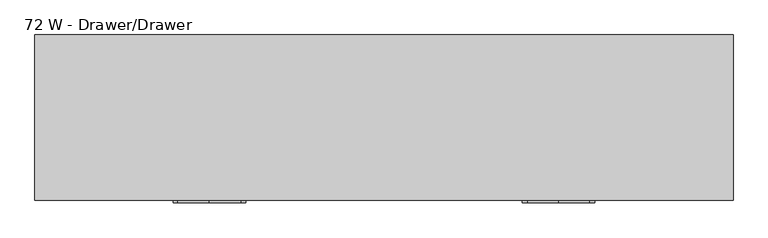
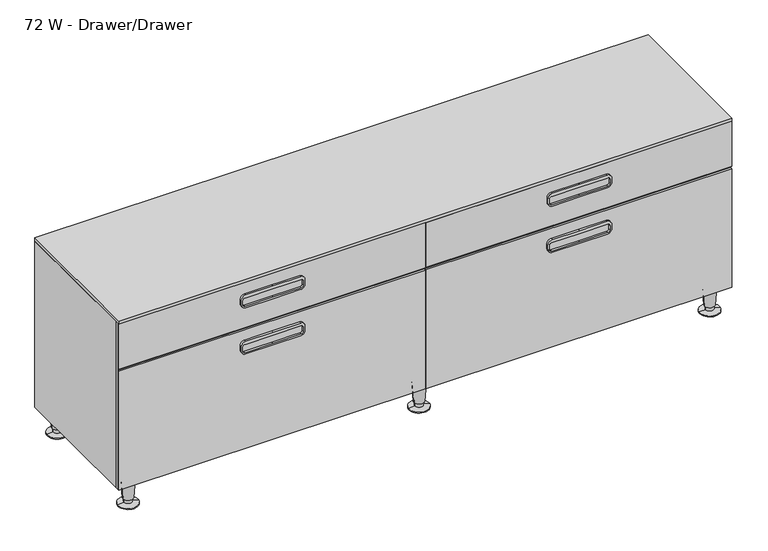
"""IFC4 building model written with IfcOpenShell, lengths in millimetres: furniture geometry, Steelcase - C Scape - Low Storage - 1.5 High - 60W and 72W : 72 W - Drawer/Drawer."""

from ifc_helpers import new_model, si_unit, point, frame, frame_2d, origin, place, context, project, spatial, polyline, circle_curve, trimmed, segment, composite_curve, outline, extrude, faceted_brep, source, transform, mapped, element, save
from ifc_brep_helpers import plane_surface, cylinder_surface, revolved_surface, advanced_brep


def furniture_72_w_drawer_drawer_66487425(model_context):
    return source(origin(), model_context, "Body", "SolidModel", [
        extrude(outline(polyline([(76.1508625, -305.435), (76.1508625, 1523.365), (599.4400097, 1523.365), (599.4400097, 609.532594), (599.4400097, -305.435), (76.1508625, -305.435)]), holes=[polyline([(92.7100024, 600.0410976), (92.7100024, -283.4617676), (436.8800097, -283.4617676), (436.8800097, 600.0410976), (92.7100024, 600.0410976)]), polyline([(588.9625, -283.4617676), (588.9625, 600.0410976), (458.7240097, 600.0410976), (458.7240097, -283.4617676), (588.9625, -283.4617676)]), polyline([(436.8800097, 617.8889024), (436.8800097, 1501.3917676), (92.7100024, 1501.3917676), (92.7100024, 617.8889024), (436.8800097, 617.8889024)]), polyline([(588.9625, 1501.3917676), (458.7240097, 1501.3917676), (458.7240097, 617.8889024), (588.9625, 617.8889024), (588.9625, 1501.3917676)])]), frame((0.0, -426.7186111, 0.0), z_axis=(0.0, 1.0, 0.0), x_axis=(0.0, 0.0, 1.0)), (0.0, 0.0, 1.0), 7.3648883),
        extrude(outline(polyline([(631.5075126, -9.525), (1501.3917676, -9.525), (1501.3917676, -415.2912402), (631.5075126, -415.2912402), (631.5075126, -9.525)])), frame((0.0, 0.0, 436.8800097), z_axis=(0.0, 0.0, 1.0), x_axis=(1.0, 0.0, 0.0)), (0.0, 0.0, 1.0), 21.844),
        extrude(outline(polyline([(586.4224874, -415.2912402), (-283.4617676, -415.2912402), (-283.4617676, -9.525), (586.4224874, -9.525), (586.4224874, -415.2912402)])), frame((0.0, 0.0, 436.8800097), z_axis=(0.0, 0.0, 1.0), x_axis=(1.0, 0.0, 0.0)), (0.0, 0.0, 1.0), 21.844),
        extrude(outline(composite_curve([segment(polyline([(419.0999879, 233.6804108), (419.0999879, 151.447655), (419.0999879, 69.2148993)]), True, "CONTINUOUS"), segment(trimmed(circle_curve(frame_2d((406.3999879, 69.2148993)), 12.7), [point((419.0999879, 69.2148993))], [point((406.3999879, 56.5148993))], False, "CARTESIAN"), True, "CONTINUOUS"), segment(polyline([(406.3999879, 56.5148993), (391.795017, 56.5148993)]), True, "CONTINUOUS"), segment(trimmed(circle_curve(frame_2d((391.795017, 69.2148993)), 12.7), [point((391.795017, 56.5148993))], [point((379.095017, 69.2148993))], False, "CARTESIAN"), True, "CONTINUOUS"), segment(polyline([(379.095017, 69.2148993), (379.095017, 151.447655), (379.095017, 233.6804108)]), True, "CONTINUOUS"), segment(trimmed(circle_curve(frame_2d((391.795017, 233.6804108)), 12.7), [point((379.095017, 233.6804108))], [point((391.795017, 246.3804108))], False, "CARTESIAN"), True, "CONTINUOUS"), segment(polyline([(391.795017, 246.3804108), (406.3999879, 246.3804108)]), True, "CONTINUOUS"), segment(trimmed(circle_curve(frame_2d((406.3999879, 233.6804108)), 12.7), [point((406.3999879, 246.3804108))], [point((419.0999879, 233.6804108))], False, "CARTESIAN"), True, "CONTINUOUS")], self_intersect=False), holes=[composite_curve([segment(polyline([(402.9710063, 241.5527985), (390.2709942, 241.5527985)]), True, "CONTINUOUS"), segment(trimmed(circle_curve(frame_2d((390.2709942, 235.2027985)), 6.35), [point((390.2709942, 241.5527985))], [point((383.9209942, 235.2027985))], True, "CARTESIAN"), True, "CONTINUOUS"), segment(polyline([(383.9209942, 235.2027985), (383.9209942, 151.447655), (383.9209942, 67.6925116)]), True, "CONTINUOUS"), segment(trimmed(circle_curve(frame_2d((390.2709942, 67.6925116)), 6.35), [point((383.9209942, 67.6925116))], [point((390.2709942, 61.3425116))], True, "CARTESIAN"), True, "CONTINUOUS"), segment(polyline([(390.2709942, 61.3425116), (402.9710063, 61.3425116)]), True, "CONTINUOUS"), segment(trimmed(circle_curve(frame_2d((402.9710063, 67.6925116)), 6.35), [point((402.9710063, 61.3425116))], [point((409.3210063, 67.6925116))], True, "CARTESIAN"), True, "CONTINUOUS"), segment(polyline([(409.3210063, 67.6925116), (409.3210063, 151.447655), (409.3210063, 235.2027985)]), True, "CONTINUOUS"), segment(trimmed(circle_curve(frame_2d((402.9710063, 235.2027985)), 6.35), [point((409.3210063, 235.2027985))], [point((402.9710063, 241.5527985))], True, "CARTESIAN"), True, "CONTINUOUS")], self_intersect=False)]), frame((0.0, -439.42, 0.0), z_axis=(0.0, 1.0, 0.0), x_axis=(0.0, 0.0, 1.0)), (0.0, 0.0, 1.0), 6.35),
        extrude(outline(composite_curve([segment(trimmed(circle_curve(frame_2d((406.3999879, 983.9320892)), 12.7), [point((419.0999879, 983.9320892))], [point((406.3999879, 971.2320892))], False, "CARTESIAN"), True, "CONTINUOUS"), segment(polyline([(406.3999879, 971.2320892), (391.795017, 971.2320892)]), True, "CONTINUOUS"), segment(trimmed(circle_curve(frame_2d((391.795017, 983.9320892)), 12.7), [point((391.795017, 971.2320892))], [point((379.095017, 983.9320892))], False, "CARTESIAN"), True, "CONTINUOUS"), segment(polyline([(379.095017, 983.9320892), (379.095017, 1066.164845), (379.095017, 1148.3976007)]), True, "CONTINUOUS"), segment(trimmed(circle_curve(frame_2d((391.795017, 1148.3976007)), 12.7), [point((379.095017, 1148.3976007))], [point((391.795017, 1161.0976007))], False, "CARTESIAN"), True, "CONTINUOUS"), segment(polyline([(391.795017, 1161.0976007), (406.3999879, 1161.0976007)]), True, "CONTINUOUS"), segment(trimmed(circle_curve(frame_2d((406.3999879, 1148.3976007)), 12.7), [point((406.3999879, 1161.0976007))], [point((419.0999879, 1148.3976007))], False, "CARTESIAN"), True, "CONTINUOUS"), segment(polyline([(419.0999879, 1148.3976007), (419.0999879, 1066.164845), (419.0999879, 983.9320892)]), True, "CONTINUOUS")], self_intersect=False), holes=[composite_curve([segment(trimmed(circle_curve(frame_2d((402.9710063, 982.4097015)), 6.35), [point((402.9710063, 976.0597015))], [point((409.3210063, 982.4097015))], True, "CARTESIAN"), True, "CONTINUOUS"), segment(polyline([(409.3210063, 982.4097015), (409.3210063, 1066.164845), (409.3210063, 1149.9199884)]), True, "CONTINUOUS"), segment(trimmed(circle_curve(frame_2d((402.9710063, 1149.9199884)), 6.35), [point((409.3210063, 1149.9199884))], [point((402.9710063, 1156.2699884))], True, "CARTESIAN"), True, "CONTINUOUS"), segment(polyline([(402.9710063, 1156.2699884), (390.2709942, 1156.2699884)]), True, "CONTINUOUS"), segment(trimmed(circle_curve(frame_2d((390.2709942, 1149.9199884)), 6.35), [point((390.2709942, 1156.2699884))], [point((383.9209942, 1149.9199884))], True, "CARTESIAN"), True, "CONTINUOUS"), segment(polyline([(383.9209942, 1149.9199884), (383.9209942, 1066.164845), (383.9209942, 982.4097015)]), True, "CONTINUOUS"), segment(trimmed(circle_curve(frame_2d((390.2709942, 982.4097015)), 6.35), [point((383.9209942, 982.4097015))], [point((390.2709942, 976.0597015))], True, "CARTESIAN"), True, "CONTINUOUS"), segment(polyline([(390.2709942, 976.0597015), (402.9710063, 976.0597015)]), True, "CONTINUOUS")], self_intersect=False)]), frame((0.0, -439.42, 0.0), z_axis=(0.0, 1.0, 0.0), x_axis=(0.0, 0.0, 1.0)), (0.0, 0.0, 1.0), 6.35),
        extrude(outline(polyline([(608.3303101, -426.7186111), (608.3303101, -433.07), (-304.8, -433.07), (-304.8, -426.7186111), (608.3303101, -426.7186111)])), frame((0.0, 0.0, 458.7240097), z_axis=(0.0, 0.0, 1.0), x_axis=(1.0, 0.0, 0.0)), (0.0, 0.0, 1.0), 140.716),
        extrude(outline(polyline([(609.5996899, -426.7186111), (1522.73, -426.7186111), (1522.73, -433.07), (609.5996899, -433.07), (609.5996899, -426.7186111)])), frame((0.0, 0.0, 458.7240097), z_axis=(0.0, 0.0, 1.0), x_axis=(1.0, 0.0, 0.0)), (0.0, 0.0, 1.0), 140.716),
        faceted_brep([(-283.4617676, -419.3537227, 92.7100024), (1501.3917676, -419.3537227, 92.7100024), (1501.3917676, -9.525, 92.7100024), (631.5075126, -9.525, 92.7100024), (631.5075126, -415.2912402, 92.7100024), (586.4224874, -415.2912402, 92.7100024), (586.4224874, -9.525, 92.7100024), (-283.4617676, -9.525, 92.7100024), (1523.365, 0.0, 76.2), (1523.365, -419.3537227, 76.2), (-305.435, -419.3537227, 76.2), (-305.435, 0.0, 76.2), (-283.4630912, -419.3537227, 599.4400097), (-305.435, -419.3537227, 599.4400097), (1523.365, -419.3537227, 599.4400097), (1501.3917676, -419.3537227, 599.4400097), (-305.435, 0.0, 599.4400097), (1523.365, 0.0, 599.4400097), (-283.4630912, -9.525, 599.4400097), (586.4224874, -9.525, 599.4400097), (586.4224874, -415.2912402, 599.4400097), (631.5075126, -415.2912402, 599.4400097), (631.5075126, -9.525, 599.4400097), (1501.3917676, -9.525, 599.4400097)], [[[0, 1, 2, 3, 4, 5, 6, 7]], [[8, 9, 10, 11]], [[1, 0, 12, 13, 10, 9, 14, 15]], [[8, 11, 16, 17]], [[16, 13, 12, 18, 19, 20, 21, 22, 23, 15, 14, 17]], [[13, 16, 11, 10]], [[18, 12, 0, 7]], [[19, 18, 7, 6]], [[20, 19, 6, 5]], [[22, 21, 4, 3]], [[23, 22, 3, 2]], [[15, 23, 2, 1]], [[17, 14, 9, 8]], [[21, 20, 5, 4]]]),
        extrude(outline(composite_curve([segment(polyline([(565.1499879, 233.6804108), (565.1499879, 151.447655), (565.1499879, 69.2148993)]), True, "CONTINUOUS"), segment(trimmed(circle_curve(frame_2d((552.4499879, 69.2148993)), 12.7), [point((565.1499879, 69.2148993))], [point((552.4499879, 56.5148993))], False, "CARTESIAN"), True, "CONTINUOUS"), segment(polyline([(552.4499879, 56.5148993), (537.845017, 56.5148993)]), True, "CONTINUOUS"), segment(trimmed(circle_curve(frame_2d((537.845017, 69.2148993)), 12.7), [point((537.845017, 56.5148993))], [point((525.145017, 69.2148993))], False, "CARTESIAN"), True, "CONTINUOUS"), segment(polyline([(525.145017, 69.2148993), (525.145017, 151.447655), (525.145017, 233.6804108)]), True, "CONTINUOUS"), segment(trimmed(circle_curve(frame_2d((537.845017, 233.6804108)), 12.7), [point((525.145017, 233.6804108))], [point((537.845017, 246.3804108))], False, "CARTESIAN"), True, "CONTINUOUS"), segment(polyline([(537.845017, 246.3804108), (552.4499879, 246.3804108)]), True, "CONTINUOUS"), segment(trimmed(circle_curve(frame_2d((552.4499879, 233.6804108)), 12.7), [point((552.4499879, 246.3804108))], [point((565.1499879, 233.6804108))], False, "CARTESIAN"), True, "CONTINUOUS")], self_intersect=False), holes=[composite_curve([segment(polyline([(549.0210063, 241.5527985), (536.3209942, 241.5527985)]), True, "CONTINUOUS"), segment(trimmed(circle_curve(frame_2d((536.3209942, 235.2027985)), 6.35), [point((536.3209942, 241.5527985))], [point((529.9709942, 235.2027985))], True, "CARTESIAN"), True, "CONTINUOUS"), segment(polyline([(529.9709942, 235.2027985), (529.9709942, 151.447655), (529.9709942, 67.6925116)]), True, "CONTINUOUS"), segment(trimmed(circle_curve(frame_2d((536.3209942, 67.6925116)), 6.35), [point((529.9709942, 67.6925116))], [point((536.3209942, 61.3425116))], True, "CARTESIAN"), True, "CONTINUOUS"), segment(polyline([(536.3209942, 61.3425116), (549.0210063, 61.3425116)]), True, "CONTINUOUS"), segment(trimmed(circle_curve(frame_2d((549.0210063, 67.6925116)), 6.35), [point((549.0210063, 61.3425116))], [point((555.3710063, 67.6925116))], True, "CARTESIAN"), True, "CONTINUOUS"), segment(polyline([(555.3710063, 67.6925116), (555.3710063, 151.447655), (555.3710063, 235.2027985)]), True, "CONTINUOUS"), segment(trimmed(circle_curve(frame_2d((549.0210063, 235.2027985)), 6.35), [point((555.3710063, 235.2027985))], [point((549.0210063, 241.5527985))], True, "CARTESIAN"), True, "CONTINUOUS")], self_intersect=False)]), frame((0.0, -439.42, 0.0), z_axis=(0.0, 1.0, 0.0), x_axis=(0.0, 0.0, 1.0)), (0.0, 0.0, 1.0), 6.35),
        extrude(outline(polyline([(608.3303101, -426.7186111), (608.3303101, -433.07), (-304.8, -433.07), (-304.8, -426.7186111), (608.3303101, -426.7186111)])), frame((0.0, 0.0, 76.2), z_axis=(0.0, 0.0, 1.0), x_axis=(1.0, 0.0, 0.0)), (0.0, 0.0, 1.0), 374.6500097),
        advanced_brep(
        [(579.8539515, -29.9489775, 0.0), (638.0760485, -38.8569507, 0.0), (608.965, -34.4029641, 0.0), (579.8539515, -29.9489775, 2.5119506), (638.0760485, -38.8569507, 2.5119506), (597.202835, -32.6033544, 5.7545598), (620.727165, -36.2025738, 5.7545598), (596.5140655, -32.4979728, 19.05), (621.4159345, -36.3079555, 19.05), (594.0844786, -32.1262463, 19.05), (623.8455214, -36.6796819, 19.05), (590.1341305, -31.5218435, 76.2), (627.7958695, -37.2840847, 76.2), (608.965, -34.4029641, 76.2)],
        [
            (0, 1, circle_curve(frame((608.965, -34.4029641, 0.0), z_axis=(0.0, 0.0, -1.0), x_axis=(0.0, -1.0, 0.0)), 29.4498071)),
            (1, 2),
            (2, 0),
            (1, 0, circle_curve(frame((608.965, -34.4029641, 0.0), z_axis=(0.0, 0.0, -1.0), x_axis=(0.0, -1.0, 0.0)), 29.4498071)),
            (3, 4, circle_curve(frame((608.965, -34.4029641, 2.5119506), z_axis=(0.0, 0.0, -1.0), x_axis=(0.0, -1.0, 0.0)), 29.4498071)),
            (4, 1),
            (0, 3),
            (4, 3, circle_curve(frame((608.965, -34.4029641, 2.5119506), z_axis=(0.0, 0.0, -1.0), x_axis=(0.0, -1.0, 0.0)), 29.4498071)),
            (5, 6, circle_curve(frame((608.965, -34.4029641, 5.7545598), z_axis=(0.0, 0.0, -1.0), x_axis=(0.0, -1.0, 0.0)), 11.8990387)),
            (6, 4),
            (3, 5),
            (6, 5, circle_curve(frame((608.965, -34.4029641, 5.7545598), z_axis=(0.0, 0.0, -1.0), x_axis=(0.0, -1.0, 0.0)), 11.8990387)),
            (7, 8, circle_curve(frame((608.965, -34.4029641, 19.05), z_axis=(0.0, 0.0, -1.0), x_axis=(0.0, -1.0, 0.0)), 12.5958232)),
            (8, 6),
            (5, 7),
            (8, 7, circle_curve(frame((608.965, -34.4029641, 19.05), z_axis=(0.0, 0.0, -1.0), x_axis=(0.0, -1.0, 0.0)), 12.5958232)),
            (9, 10, circle_curve(frame((608.965, -34.4029641, 19.05), z_axis=(0.0, 0.0, -1.0), x_axis=(0.0, -1.0, 0.0)), 15.0536827)),
            (10, 8),
            (7, 9),
            (10, 9, circle_curve(frame((608.965, -34.4029641, 19.05), z_axis=(0.0, 0.0, -1.0), x_axis=(0.0, -1.0, 0.0)), 15.0536827)),
            (11, 12, circle_curve(frame((608.965, -34.4029641, 76.2), z_axis=(0.0, 0.0, -1.0), x_axis=(0.0, -1.0, 0.0)), 19.05)),
            (12, 10),
            (9, 11),
            (12, 11, circle_curve(frame((608.965, -34.4029641, 76.2), z_axis=(0.0, 0.0, -1.0), x_axis=(0.0, -1.0, 0.0)), 19.05)),
            (13, 12),
            (11, 13),
        ],
        [
            plane_surface(frame((608.965, -34.4029641, 0.0), z_axis=(0.0, 0.0, -1.0), x_axis=(0.0, -1.0, 0.0))),
            cylinder_surface(frame((608.965, -34.4029641, 25.4), z_axis=(0.0, 0.0, 1.0), x_axis=(0.0, -1.0, 0.0)), 29.4498071),
            revolved_surface(polyline([(608.965, -63.8527712, 2.5119506), (608.965, -46.3020028, 5.7545598)]), (608.965, -34.4029641, 25.4), (0.0, 0.0, 1.0)),
            revolved_surface(polyline([(608.965, -46.3020028, 5.7545598), (608.965, -46.9987873, 19.05)]), (608.965, -34.4029641, 25.4), (0.0, 0.0, 1.0)),
            plane_surface(frame((608.965, -34.4029641, 19.05), z_axis=(0.0, 0.0, -1.0), x_axis=(0.0, -1.0, 0.0))),
            revolved_surface(polyline([(608.965, -49.4566468, 19.05), (608.965, -53.4529641, 76.2)]), (608.965, -34.4029641, 25.4), (0.0, 0.0, 1.0)),
            plane_surface(frame((608.965, -34.4029641, 76.2), z_axis=(0.0, 0.0, 1.0), x_axis=(0.0, -1.0, 0.0))),
        ],
        [
            (0, [[1, 2, 3]]),
            (0, [[4, -3, -2]]),
            (1, [[5, 6, -1, 7]]),
            (1, [[8, -7, -4, -6]]),
            (2, [[9, 10, -5, 11]]),
            (2, [[12, -11, -8, -10]]),
            (3, [[13, 14, -9, 15]]),
            (3, [[16, -15, -12, -14]]),
            (4, [[17, 18, -13, 19]]),
            (4, [[20, -19, -16, -18]]),
            (5, [[21, 22, -17, 23]]),
            (5, [[24, -23, -20, -22]]),
            (6, [[25, -21, 26]]),
            (6, [[-26, -24, -25]]),
        ],
    ),
        advanced_brep(
        [(579.8539515, -395.5974102, 0.0), (638.0760485, -404.5053834, 0.0), (608.965, -400.0513968, 0.0), (579.8539515, -395.5974102, 2.5119506), (638.0760485, -404.5053834, 2.5119506), (597.202835, -398.2517871, 5.7545598), (620.727165, -401.8510065, 5.7545598), (596.5140655, -398.1464055, 19.05), (621.4159345, -401.9563882, 19.05), (594.0844786, -397.774679, 19.05), (623.8455214, -402.3281146, 19.05), (590.1341305, -397.1702762, 76.2), (627.7958695, -402.9325174, 76.2), (608.965, -400.0513968, 76.2)],
        [
            (0, 1, circle_curve(frame((608.965, -400.0513968, 0.0), z_axis=(0.0, 0.0, -1.0), x_axis=(0.0, -1.0, 0.0)), 29.4498071)),
            (1, 2),
            (2, 0),
            (1, 0, circle_curve(frame((608.965, -400.0513968, 0.0), z_axis=(0.0, 0.0, -1.0), x_axis=(0.0, -1.0, 0.0)), 29.4498071)),
            (3, 4, circle_curve(frame((608.965, -400.0513968, 2.5119506), z_axis=(0.0, 0.0, -1.0), x_axis=(0.0, -1.0, 0.0)), 29.4498071)),
            (4, 1),
            (0, 3),
            (4, 3, circle_curve(frame((608.965, -400.0513968, 2.5119506), z_axis=(0.0, 0.0, -1.0), x_axis=(0.0, -1.0, 0.0)), 29.4498071)),
            (5, 6, circle_curve(frame((608.965, -400.0513968, 5.7545598), z_axis=(0.0, 0.0, -1.0), x_axis=(0.0, -1.0, 0.0)), 11.8990387)),
            (6, 4),
            (3, 5),
            (6, 5, circle_curve(frame((608.965, -400.0513968, 5.7545598), z_axis=(0.0, 0.0, -1.0), x_axis=(0.0, -1.0, 0.0)), 11.8990387)),
            (7, 8, circle_curve(frame((608.965, -400.0513968, 19.05), z_axis=(0.0, 0.0, -1.0), x_axis=(0.0, -1.0, 0.0)), 12.5958232)),
            (8, 6),
            (5, 7),
            (8, 7, circle_curve(frame((608.965, -400.0513968, 19.05), z_axis=(0.0, 0.0, -1.0), x_axis=(0.0, -1.0, 0.0)), 12.5958232)),
            (9, 10, circle_curve(frame((608.965, -400.0513968, 19.05), z_axis=(0.0, 0.0, -1.0), x_axis=(0.0, -1.0, 0.0)), 15.0536827)),
            (10, 8),
            (7, 9),
            (10, 9, circle_curve(frame((608.965, -400.0513968, 19.05), z_axis=(0.0, 0.0, -1.0), x_axis=(0.0, -1.0, 0.0)), 15.0536827)),
            (11, 12, circle_curve(frame((608.965, -400.0513968, 76.2), z_axis=(0.0, 0.0, -1.0), x_axis=(0.0, -1.0, 0.0)), 19.05)),
            (12, 10),
            (9, 11),
            (12, 11, circle_curve(frame((608.965, -400.0513968, 76.2), z_axis=(0.0, 0.0, -1.0), x_axis=(0.0, -1.0, 0.0)), 19.05)),
            (13, 12),
            (11, 13),
        ],
        [
            plane_surface(frame((608.965, -400.0513968, 0.0), z_axis=(0.0, 0.0, -1.0), x_axis=(0.0, -1.0, 0.0))),
            cylinder_surface(frame((608.965, -400.0513968, 25.4), z_axis=(0.0, 0.0, 1.0), x_axis=(0.0, -1.0, 0.0)), 29.4498071),
            revolved_surface(polyline([(608.965, -429.5012039, 2.5119506), (608.965, -411.9504355, 5.7545598)]), (608.965, -400.0513968, 25.4), (0.0, 0.0, 1.0)),
            revolved_surface(polyline([(608.965, -411.9504355, 5.7545598), (608.965, -412.64722, 19.05)]), (608.965, -400.0513968, 25.4), (0.0, 0.0, 1.0)),
            plane_surface(frame((608.965, -400.0513968, 19.05), z_axis=(0.0, 0.0, -1.0), x_axis=(0.0, -1.0, 0.0))),
            revolved_surface(polyline([(608.965, -415.1050795, 19.05), (608.965, -419.1013968, 76.2)]), (608.965, -400.0513968, 25.4), (0.0, 0.0, 1.0)),
            plane_surface(frame((608.965, -400.0513968, 76.2), z_axis=(0.0, 0.0, 1.0), x_axis=(0.0, -1.0, 0.0))),
        ],
        [
            (0, [[1, 2, 3]]),
            (0, [[4, -3, -2]]),
            (1, [[5, 6, -1, 7]]),
            (1, [[8, -7, -4, -6]]),
            (2, [[9, 10, -5, 11]]),
            (2, [[12, -11, -8, -10]]),
            (3, [[13, 14, -9, 15]]),
            (3, [[16, -15, -12, -14]]),
            (4, [[17, 18, -13, 19]]),
            (4, [[20, -19, -16, -18]]),
            (5, [[21, 22, -17, 23]]),
            (5, [[24, -23, -20, -22]]),
            (6, [[25, -21, 26]]),
            (6, [[-26, -24, -25]]),
        ],
    ),
        extrude(outline(composite_curve([segment(trimmed(circle_curve(frame_2d((552.4499879, 983.9320892)), 12.7), [point((565.1499879, 983.9320892))], [point((552.4499879, 971.2320892))], False, "CARTESIAN"), True, "CONTINUOUS"), segment(polyline([(552.4499879, 971.2320892), (537.845017, 971.2320892)]), True, "CONTINUOUS"), segment(trimmed(circle_curve(frame_2d((537.845017, 983.9320892)), 12.7), [point((537.845017, 971.2320892))], [point((525.145017, 983.9320892))], False, "CARTESIAN"), True, "CONTINUOUS"), segment(polyline([(525.145017, 983.9320892), (525.145017, 1066.164845), (525.145017, 1148.3976007)]), True, "CONTINUOUS"), segment(trimmed(circle_curve(frame_2d((537.845017, 1148.3976007)), 12.7), [point((525.145017, 1148.3976007))], [point((537.845017, 1161.0976007))], False, "CARTESIAN"), True, "CONTINUOUS"), segment(polyline([(537.845017, 1161.0976007), (552.4499879, 1161.0976007)]), True, "CONTINUOUS"), segment(trimmed(circle_curve(frame_2d((552.4499879, 1148.3976007)), 12.7), [point((552.4499879, 1161.0976007))], [point((565.1499879, 1148.3976007))], False, "CARTESIAN"), True, "CONTINUOUS"), segment(polyline([(565.1499879, 1148.3976007), (565.1499879, 1066.164845), (565.1499879, 983.9320892)]), True, "CONTINUOUS")], self_intersect=False), holes=[composite_curve([segment(trimmed(circle_curve(frame_2d((549.0210063, 982.4097015)), 6.35), [point((549.0210063, 976.0597015))], [point((555.3710063, 982.4097015))], True, "CARTESIAN"), True, "CONTINUOUS"), segment(polyline([(555.3710063, 982.4097015), (555.3710063, 1066.164845), (555.3710063, 1149.9199884)]), True, "CONTINUOUS"), segment(trimmed(circle_curve(frame_2d((549.0210063, 1149.9199884)), 6.35), [point((555.3710063, 1149.9199884))], [point((549.0210063, 1156.2699884))], True, "CARTESIAN"), True, "CONTINUOUS"), segment(polyline([(549.0210063, 1156.2699884), (536.3209942, 1156.2699884)]), True, "CONTINUOUS"), segment(trimmed(circle_curve(frame_2d((536.3209942, 1149.9199884)), 6.35), [point((536.3209942, 1156.2699884))], [point((529.9709942, 1149.9199884))], True, "CARTESIAN"), True, "CONTINUOUS"), segment(polyline([(529.9709942, 1149.9199884), (529.9709942, 1066.164845), (529.9709942, 982.4097015)]), True, "CONTINUOUS"), segment(trimmed(circle_curve(frame_2d((536.3209942, 982.4097015)), 6.35), [point((529.9709942, 982.4097015))], [point((536.3209942, 976.0597015))], True, "CARTESIAN"), True, "CONTINUOUS"), segment(polyline([(536.3209942, 976.0597015), (549.0210063, 976.0597015)]), True, "CONTINUOUS")], self_intersect=False)]), frame((0.0, -439.42, 0.0), z_axis=(0.0, 1.0, 0.0), x_axis=(0.0, 0.0, 1.0)), (0.0, 0.0, 1.0), 6.35),
        advanced_brep(
        [(1446.9075389, -29.9489775, 0.0), (1505.1296359, -38.8569507, 0.0), (1476.0185874, -34.4029641, 0.0), (1446.9075389, -29.9489775, 2.5119506), (1505.1296359, -38.8569507, 2.5119506), (1464.2564224, -32.6033544, 5.7545598), (1487.7807524, -36.2025738, 5.7545598), (1463.5676529, -32.4979728, 19.05), (1488.4695219, -36.3079555, 19.05), (1461.1380659, -32.1262463, 19.05), (1490.8991088, -36.6796819, 19.05), (1457.1877179, -31.5218435, 76.2), (1494.8494568, -37.2840847, 76.2), (1476.0185874, -34.4029641, 76.2)],
        [
            (0, 1, circle_curve(frame((1476.0185874, -34.4029641, 0.0), z_axis=(0.0, 0.0, -1.0), x_axis=(0.0, -1.0, 0.0)), 29.4498071)),
            (1, 2),
            (2, 0),
            (1, 0, circle_curve(frame((1476.0185874, -34.4029641, 0.0), z_axis=(0.0, 0.0, -1.0), x_axis=(0.0, -1.0, 0.0)), 29.4498071)),
            (3, 4, circle_curve(frame((1476.0185874, -34.4029641, 2.5119506), z_axis=(0.0, 0.0, -1.0), x_axis=(0.0, -1.0, 0.0)), 29.4498071)),
            (4, 1),
            (0, 3),
            (4, 3, circle_curve(frame((1476.0185874, -34.4029641, 2.5119506), z_axis=(0.0, 0.0, -1.0), x_axis=(0.0, -1.0, 0.0)), 29.4498071)),
            (5, 6, circle_curve(frame((1476.0185874, -34.4029641, 5.7545598), z_axis=(0.0, 0.0, -1.0), x_axis=(0.0, -1.0, 0.0)), 11.8990387)),
            (6, 4),
            (3, 5),
            (6, 5, circle_curve(frame((1476.0185874, -34.4029641, 5.7545598), z_axis=(0.0, 0.0, -1.0), x_axis=(0.0, -1.0, 0.0)), 11.8990387)),
            (7, 8, circle_curve(frame((1476.0185874, -34.4029641, 19.05), z_axis=(0.0, 0.0, -1.0), x_axis=(0.0, -1.0, 0.0)), 12.5958232)),
            (8, 6),
            (5, 7),
            (8, 7, circle_curve(frame((1476.0185874, -34.4029641, 19.05), z_axis=(0.0, 0.0, -1.0), x_axis=(0.0, -1.0, 0.0)), 12.5958232)),
            (9, 10, circle_curve(frame((1476.0185874, -34.4029641, 19.05), z_axis=(0.0, 0.0, -1.0), x_axis=(0.0, -1.0, 0.0)), 15.0536827)),
            (10, 8),
            (7, 9),
            (10, 9, circle_curve(frame((1476.0185874, -34.4029641, 19.05), z_axis=(0.0, 0.0, -1.0), x_axis=(0.0, -1.0, 0.0)), 15.0536827)),
            (11, 12, circle_curve(frame((1476.0185874, -34.4029641, 76.2), z_axis=(0.0, 0.0, -1.0), x_axis=(0.0, -1.0, 0.0)), 19.05)),
            (12, 10),
            (9, 11),
            (12, 11, circle_curve(frame((1476.0185874, -34.4029641, 76.2), z_axis=(0.0, 0.0, -1.0), x_axis=(0.0, -1.0, 0.0)), 19.05)),
            (13, 12),
            (11, 13),
        ],
        [
            plane_surface(frame((1476.0185874, -34.4029641, 0.0), z_axis=(0.0, 0.0, -1.0), x_axis=(0.0, -1.0, 0.0))),
            cylinder_surface(frame((1476.0185874, -34.4029641, 25.4), z_axis=(0.0, 0.0, 1.0), x_axis=(0.0, -1.0, 0.0)), 29.4498071),
            revolved_surface(polyline([(1476.0185874, -63.8527712, 2.5119506), (1476.0185874, -46.3020028, 5.7545598)]), (1476.0185874, -34.4029641, 25.4), (0.0, 0.0, 1.0)),
            revolved_surface(polyline([(1476.0185874, -46.3020028, 5.7545598), (1476.0185874, -46.9987873, 19.05)]), (1476.0185874, -34.4029641, 25.4), (0.0, 0.0, 1.0)),
            plane_surface(frame((1476.0185874, -34.4029641, 19.05), z_axis=(0.0, 0.0, -1.0), x_axis=(0.0, -1.0, 0.0))),
            revolved_surface(polyline([(1476.0185874, -49.4566468, 19.05), (1476.0185874, -53.4529641, 76.2)]), (1476.0185874, -34.4029641, 25.4), (0.0, 0.0, 1.0)),
            plane_surface(frame((1476.0185874, -34.4029641, 76.2), z_axis=(0.0, 0.0, 1.0), x_axis=(0.0, -1.0, 0.0))),
        ],
        [
            (0, [[1, 2, 3]]),
            (0, [[4, -3, -2]]),
            (1, [[5, 6, -1, 7]]),
            (1, [[8, -7, -4, -6]]),
            (2, [[9, 10, -5, 11]]),
            (2, [[12, -11, -8, -10]]),
            (3, [[13, 14, -9, 15]]),
            (3, [[16, -15, -12, -14]]),
            (4, [[17, 18, -13, 19]]),
            (4, [[20, -19, -16, -18]]),
            (5, [[21, 22, -17, 23]]),
            (5, [[24, -23, -20, -22]]),
            (6, [[25, -21, 26]]),
            (6, [[-26, -24, -25]]),
        ],
    ),
        advanced_brep(
        [(1446.9075389, -395.5974102, 0.0), (1505.1296359, -404.5053834, 0.0), (1476.0185874, -400.0513968, 0.0), (1446.9075389, -395.5974102, 2.5119506), (1505.1296359, -404.5053834, 2.5119506), (1464.2564224, -398.2517871, 5.7545598), (1487.7807524, -401.8510065, 5.7545598), (1463.5676529, -398.1464055, 19.05), (1488.4695219, -401.9563882, 19.05), (1461.1380659, -397.774679, 19.05), (1490.8991088, -402.3281146, 19.05), (1457.1877179, -397.1702762, 76.2), (1494.8494568, -402.9325174, 76.2), (1476.0185874, -400.0513968, 76.2)],
        [
            (0, 1, circle_curve(frame((1476.0185874, -400.0513968, 0.0), z_axis=(0.0, 0.0, -1.0), x_axis=(0.0, -1.0, 0.0)), 29.4498071)),
            (1, 2),
            (2, 0),
            (1, 0, circle_curve(frame((1476.0185874, -400.0513968, 0.0), z_axis=(0.0, 0.0, -1.0), x_axis=(0.0, -1.0, 0.0)), 29.4498071)),
            (3, 4, circle_curve(frame((1476.0185874, -400.0513968, 2.5119506), z_axis=(0.0, 0.0, -1.0), x_axis=(0.0, -1.0, 0.0)), 29.4498071)),
            (4, 1),
            (0, 3),
            (4, 3, circle_curve(frame((1476.0185874, -400.0513968, 2.5119506), z_axis=(0.0, 0.0, -1.0), x_axis=(0.0, -1.0, 0.0)), 29.4498071)),
            (5, 6, circle_curve(frame((1476.0185874, -400.0513968, 5.7545598), z_axis=(0.0, 0.0, -1.0), x_axis=(0.0, -1.0, 0.0)), 11.8990387)),
            (6, 4),
            (3, 5),
            (6, 5, circle_curve(frame((1476.0185874, -400.0513968, 5.7545598), z_axis=(0.0, 0.0, -1.0), x_axis=(0.0, -1.0, 0.0)), 11.8990387)),
            (7, 8, circle_curve(frame((1476.0185874, -400.0513968, 19.05), z_axis=(0.0, 0.0, -1.0), x_axis=(0.0, -1.0, 0.0)), 12.5958232)),
            (8, 6),
            (5, 7),
            (8, 7, circle_curve(frame((1476.0185874, -400.0513968, 19.05), z_axis=(0.0, 0.0, -1.0), x_axis=(0.0, -1.0, 0.0)), 12.5958232)),
            (9, 10, circle_curve(frame((1476.0185874, -400.0513968, 19.05), z_axis=(0.0, 0.0, -1.0), x_axis=(0.0, -1.0, 0.0)), 15.0536827)),
            (10, 8),
            (7, 9),
            (10, 9, circle_curve(frame((1476.0185874, -400.0513968, 19.05), z_axis=(0.0, 0.0, -1.0), x_axis=(0.0, -1.0, 0.0)), 15.0536827)),
            (11, 12, circle_curve(frame((1476.0185874, -400.0513968, 76.2), z_axis=(0.0, 0.0, -1.0), x_axis=(0.0, -1.0, 0.0)), 19.05)),
            (12, 10),
            (9, 11),
            (12, 11, circle_curve(frame((1476.0185874, -400.0513968, 76.2), z_axis=(0.0, 0.0, -1.0), x_axis=(0.0, -1.0, 0.0)), 19.05)),
            (13, 12),
            (11, 13),
        ],
        [
            plane_surface(frame((1476.0185874, -400.0513968, 0.0), z_axis=(0.0, 0.0, -1.0), x_axis=(0.0, -1.0, 0.0))),
            cylinder_surface(frame((1476.0185874, -400.0513968, 25.4), z_axis=(0.0, 0.0, 1.0), x_axis=(0.0, -1.0, 0.0)), 29.4498071),
            revolved_surface(polyline([(1476.0185874, -429.5012039, 2.5119506), (1476.0185874, -411.9504355, 5.7545598)]), (1476.0185874, -400.0513968, 25.4), (0.0, 0.0, 1.0)),
            revolved_surface(polyline([(1476.0185874, -411.9504355, 5.7545598), (1476.0185874, -412.64722, 19.05)]), (1476.0185874, -400.0513968, 25.4), (0.0, 0.0, 1.0)),
            plane_surface(frame((1476.0185874, -400.0513968, 19.05), z_axis=(0.0, 0.0, -1.0), x_axis=(0.0, -1.0, 0.0))),
            revolved_surface(polyline([(1476.0185874, -415.1050795, 19.05), (1476.0185874, -419.1013968, 76.2)]), (1476.0185874, -400.0513968, 25.4), (0.0, 0.0, 1.0)),
            plane_surface(frame((1476.0185874, -400.0513968, 76.2), z_axis=(0.0, 0.0, 1.0), x_axis=(0.0, -1.0, 0.0))),
        ],
        [
            (0, [[1, 2, 3]]),
            (0, [[4, -3, -2]]),
            (1, [[5, 6, -1, 7]]),
            (1, [[8, -7, -4, -6]]),
            (2, [[9, 10, -5, 11]]),
            (2, [[12, -11, -8, -10]]),
            (3, [[13, 14, -9, 15]]),
            (3, [[16, -15, -12, -14]]),
            (4, [[17, 18, -13, 19]]),
            (4, [[20, -19, -16, -18]]),
            (5, [[21, 22, -17, 23]]),
            (5, [[24, -23, -20, -22]]),
            (6, [[25, -21, 26]]),
            (6, [[-26, -24, -25]]),
        ],
    ),
        advanced_brep(
        [(-287.8113721, -395.5974102, 0.0), (-229.5892752, -404.5053834, 0.0), (-258.7003237, -400.0513968, 0.0), (-287.8113721, -395.5974102, 2.5119506), (-229.5892752, -404.5053834, 2.5119506), (-270.4624887, -398.2517871, 5.7545598), (-246.9381586, -401.8510065, 5.7545598), (-271.1512581, -398.1464055, 19.05), (-246.2493892, -401.9563882, 19.05), (-273.5808451, -397.774679, 19.05), (-243.8198022, -402.3281146, 19.05), (-277.5311931, -397.1702762, 76.2), (-239.8694542, -402.9325174, 76.2), (-258.7003237, -400.0513968, 76.2)],
        [
            (0, 1, circle_curve(frame((-258.7003237, -400.0513968, 0.0), z_axis=(0.0, 0.0, -1.0), x_axis=(0.0, -1.0, 0.0)), 29.4498071)),
            (1, 2),
            (2, 0),
            (1, 0, circle_curve(frame((-258.7003237, -400.0513968, 0.0), z_axis=(0.0, 0.0, -1.0), x_axis=(0.0, -1.0, 0.0)), 29.4498071)),
            (3, 4, circle_curve(frame((-258.7003237, -400.0513968, 2.5119506), z_axis=(0.0, 0.0, -1.0), x_axis=(0.0, -1.0, 0.0)), 29.4498071)),
            (4, 1),
            (0, 3),
            (4, 3, circle_curve(frame((-258.7003237, -400.0513968, 2.5119506), z_axis=(0.0, 0.0, -1.0), x_axis=(0.0, -1.0, 0.0)), 29.4498071)),
            (5, 6, circle_curve(frame((-258.7003237, -400.0513968, 5.7545598), z_axis=(0.0, 0.0, -1.0), x_axis=(0.0, -1.0, 0.0)), 11.8990387)),
            (6, 4),
            (3, 5),
            (6, 5, circle_curve(frame((-258.7003237, -400.0513968, 5.7545598), z_axis=(0.0, 0.0, -1.0), x_axis=(0.0, -1.0, 0.0)), 11.8990387)),
            (7, 8, circle_curve(frame((-258.7003237, -400.0513968, 19.05), z_axis=(0.0, 0.0, -1.0), x_axis=(0.0, -1.0, 0.0)), 12.5958232)),
            (8, 6),
            (5, 7),
            (8, 7, circle_curve(frame((-258.7003237, -400.0513968, 19.05), z_axis=(0.0, 0.0, -1.0), x_axis=(0.0, -1.0, 0.0)), 12.5958232)),
            (9, 10, circle_curve(frame((-258.7003237, -400.0513968, 19.05), z_axis=(0.0, 0.0, -1.0), x_axis=(0.0, -1.0, 0.0)), 15.0536827)),
            (10, 8),
            (7, 9),
            (10, 9, circle_curve(frame((-258.7003237, -400.0513968, 19.05), z_axis=(0.0, 0.0, -1.0), x_axis=(0.0, -1.0, 0.0)), 15.0536827)),
            (11, 12, circle_curve(frame((-258.7003237, -400.0513968, 76.2), z_axis=(0.0, 0.0, -1.0), x_axis=(0.0, -1.0, 0.0)), 19.05)),
            (12, 10),
            (9, 11),
            (12, 11, circle_curve(frame((-258.7003237, -400.0513968, 76.2), z_axis=(0.0, 0.0, -1.0), x_axis=(0.0, -1.0, 0.0)), 19.05)),
            (13, 12),
            (11, 13),
        ],
        [
            plane_surface(frame((-258.7003237, -400.0513968, 0.0), z_axis=(0.0, 0.0, -1.0), x_axis=(0.0, -1.0, 0.0))),
            cylinder_surface(frame((-258.7003237, -400.0513968, 25.4), z_axis=(0.0, 0.0, 1.0), x_axis=(0.0, -1.0, 0.0)), 29.4498071),
            revolved_surface(polyline([(-258.7003237, -429.5012039, 2.5119506), (-258.7003237, -411.9504355, 5.7545598)]), (-258.7003237, -400.0513968, 25.4), (0.0, 0.0, 1.0)),
            revolved_surface(polyline([(-258.7003237, -411.9504355, 5.7545598), (-258.7003237, -412.64722, 19.05)]), (-258.7003237, -400.0513968, 25.4), (0.0, 0.0, 1.0)),
            plane_surface(frame((-258.7003237, -400.0513968, 19.05), z_axis=(0.0, 0.0, -1.0), x_axis=(0.0, -1.0, 0.0))),
            revolved_surface(polyline([(-258.7003237, -415.1050795, 19.05), (-258.7003237, -419.1013968, 76.2)]), (-258.7003237, -400.0513968, 25.4), (0.0, 0.0, 1.0)),
            plane_surface(frame((-258.7003237, -400.0513968, 76.2), z_axis=(0.0, 0.0, 1.0), x_axis=(0.0, -1.0, 0.0))),
        ],
        [
            (0, [[1, 2, 3]]),
            (0, [[4, -3, -2]]),
            (1, [[5, 6, -1, 7]]),
            (1, [[8, -7, -4, -6]]),
            (2, [[9, 10, -5, 11]]),
            (2, [[12, -11, -8, -10]]),
            (3, [[13, 14, -9, 15]]),
            (3, [[16, -15, -12, -14]]),
            (4, [[17, 18, -13, 19]]),
            (4, [[20, -19, -16, -18]]),
            (5, [[21, 22, -17, 23]]),
            (5, [[24, -23, -20, -22]]),
            (6, [[25, -21, 26]]),
            (6, [[-26, -24, -25]]),
        ],
    ),
        advanced_brep(
        [(-287.8113721, -29.9489775, 0.0), (-229.5892752, -38.8569507, 0.0), (-258.7003237, -34.4029641, 0.0), (-287.8113721, -29.9489775, 2.5119506), (-229.5892752, -38.8569507, 2.5119506), (-270.4624887, -32.6033544, 5.7545598), (-246.9381586, -36.2025738, 5.7545598), (-271.1512581, -32.4979728, 19.05), (-246.2493892, -36.3079555, 19.05), (-273.5808451, -32.1262463, 19.05), (-243.8198022, -36.6796819, 19.05), (-277.5311931, -31.5218435, 76.2), (-239.8694542, -37.2840847, 76.2), (-258.7003237, -34.4029641, 76.2)],
        [
            (0, 1, circle_curve(frame((-258.7003237, -34.4029641, 0.0), z_axis=(0.0, 0.0, -1.0), x_axis=(0.0, -1.0, 0.0)), 29.4498071)),
            (1, 2),
            (2, 0),
            (1, 0, circle_curve(frame((-258.7003237, -34.4029641, 0.0), z_axis=(0.0, 0.0, -1.0), x_axis=(0.0, -1.0, 0.0)), 29.4498071)),
            (3, 4, circle_curve(frame((-258.7003237, -34.4029641, 2.5119506), z_axis=(0.0, 0.0, -1.0), x_axis=(0.0, -1.0, 0.0)), 29.4498071)),
            (4, 1),
            (0, 3),
            (4, 3, circle_curve(frame((-258.7003237, -34.4029641, 2.5119506), z_axis=(0.0, 0.0, -1.0), x_axis=(0.0, -1.0, 0.0)), 29.4498071)),
            (5, 6, circle_curve(frame((-258.7003237, -34.4029641, 5.7545598), z_axis=(0.0, 0.0, -1.0), x_axis=(0.0, -1.0, 0.0)), 11.8990387)),
            (6, 4),
            (3, 5),
            (6, 5, circle_curve(frame((-258.7003237, -34.4029641, 5.7545598), z_axis=(0.0, 0.0, -1.0), x_axis=(0.0, -1.0, 0.0)), 11.8990387)),
            (7, 8, circle_curve(frame((-258.7003237, -34.4029641, 19.05), z_axis=(0.0, 0.0, -1.0), x_axis=(0.0, -1.0, 0.0)), 12.5958232)),
            (8, 6),
            (5, 7),
            (8, 7, circle_curve(frame((-258.7003237, -34.4029641, 19.05), z_axis=(0.0, 0.0, -1.0), x_axis=(0.0, -1.0, 0.0)), 12.5958232)),
            (9, 10, circle_curve(frame((-258.7003237, -34.4029641, 19.05), z_axis=(0.0, 0.0, -1.0), x_axis=(0.0, -1.0, 0.0)), 15.0536827)),
            (10, 8),
            (7, 9),
            (10, 9, circle_curve(frame((-258.7003237, -34.4029641, 19.05), z_axis=(0.0, 0.0, -1.0), x_axis=(0.0, -1.0, 0.0)), 15.0536827)),
            (11, 12, circle_curve(frame((-258.7003237, -34.4029641, 76.2), z_axis=(0.0, 0.0, -1.0), x_axis=(0.0, -1.0, 0.0)), 19.05)),
            (12, 10),
            (9, 11),
            (12, 11, circle_curve(frame((-258.7003237, -34.4029641, 76.2), z_axis=(0.0, 0.0, -1.0), x_axis=(0.0, -1.0, 0.0)), 19.05)),
            (13, 12),
            (11, 13),
        ],
        [
            plane_surface(frame((-258.7003237, -34.4029641, 0.0), z_axis=(0.0, 0.0, -1.0), x_axis=(0.0, -1.0, 0.0))),
            cylinder_surface(frame((-258.7003237, -34.4029641, 25.4), z_axis=(0.0, 0.0, 1.0), x_axis=(0.0, -1.0, 0.0)), 29.4498071),
            revolved_surface(polyline([(-258.7003237, -63.8527712, 2.5119506), (-258.7003237, -46.3020028, 5.7545598)]), (-258.7003237, -34.4029641, 25.4), (0.0, 0.0, 1.0)),
            revolved_surface(polyline([(-258.7003237, -46.3020028, 5.7545598), (-258.7003237, -46.9987873, 19.05)]), (-258.7003237, -34.4029641, 25.4), (0.0, 0.0, 1.0)),
            plane_surface(frame((-258.7003237, -34.4029641, 19.05), z_axis=(0.0, 0.0, -1.0), x_axis=(0.0, -1.0, 0.0))),
            revolved_surface(polyline([(-258.7003237, -49.4566468, 19.05), (-258.7003237, -53.4529641, 76.2)]), (-258.7003237, -34.4029641, 25.4), (0.0, 0.0, 1.0)),
            plane_surface(frame((-258.7003237, -34.4029641, 76.2), z_axis=(0.0, 0.0, 1.0), x_axis=(0.0, -1.0, 0.0))),
        ],
        [
            (0, [[1, 2, 3]]),
            (0, [[4, -3, -2]]),
            (1, [[5, 6, -1, 7]]),
            (1, [[8, -7, -4, -6]]),
            (2, [[9, 10, -5, 11]]),
            (2, [[12, -11, -8, -10]]),
            (3, [[13, 14, -9, 15]]),
            (3, [[16, -15, -12, -14]]),
            (4, [[17, 18, -13, 19]]),
            (4, [[20, -19, -16, -18]]),
            (5, [[21, 22, -17, 23]]),
            (5, [[24, -23, -20, -22]]),
            (6, [[25, -21, 26]]),
            (6, [[-26, -24, -25]]),
        ],
    ),
        extrude(outline(polyline([(609.5996899, -426.7186111), (1522.73, -426.7186111), (1522.73, -433.07), (609.5996899, -433.07), (609.5996899, -426.7186111)])), frame((0.0, 0.0, 76.2), z_axis=(0.0, 0.0, 1.0), x_axis=(1.0, 0.0, 0.0)), (0.0, 0.0, 1.0), 374.6500097),
        extrude(outline(polyline([(-305.435, 0.0), (1523.365, 0.0), (1523.365, -433.07), (-305.435, -433.07), (-305.435, 0.0)])), frame((0.0, 0.0, 599.4400097), z_axis=(0.0, 0.0, 1.0), x_axis=(1.0, 0.0, 0.0)), (0.0, 0.0, 1.0), 10.1599903),
    ])


if __name__ == "__main__":
    model = new_model("IFC4")
    model_context = context("Model", 3, world=origin())
    ifc_project = project(units=[si_unit("LENGTHUNIT", "METRE", prefix="MILLI")], contexts=[model_context])
    site = spatial("IfcSite", under=ifc_project)
    building = spatial("IfcBuilding", under=site)
    placement = place(None, origin())
    furniture_72_w_drawer_drawer_shape = furniture_72_w_drawer_drawer_66487425(model_context)
    element("IfcFurniture", 1, ObjectType="Steelcase - C Scape - Low Storage - 1.5 High - 60W and 72W : 72 W - Drawer/Drawer", at=placement, inside=building, context=model_context, shape_type="MappedRepresentation", body=[
        mapped(furniture_72_w_drawer_drawer_shape, transform((0.0, 0.0, 0.0), x_axis=(1.0, 0.0, 0.0), y_axis=(0.0, 1.0, 0.0), z_axis=(0.0, 0.0, 1.0))),
    ])
    save(model, "model.ifc")
